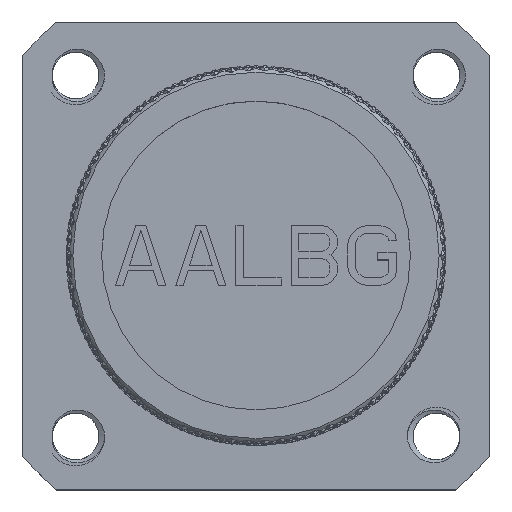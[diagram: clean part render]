
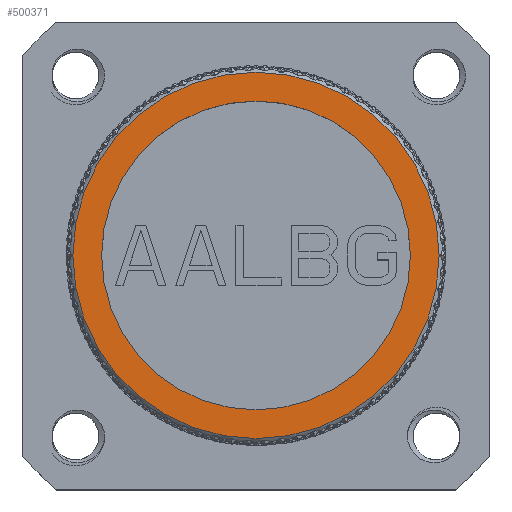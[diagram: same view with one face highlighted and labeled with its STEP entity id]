
A CAD part, top view. The second image highlights one B-rep face of the part: STEP entity #500371.
In plain terms, the highlighted planar face has unit normal (0, 0, 1).
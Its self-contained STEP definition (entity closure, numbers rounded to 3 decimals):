
#149190=CARTESIAN_POINT('',(0.,0.,26.85));
#149191=DIRECTION('',(0.,0.,-1.));
#149192=DIRECTION('',(1.,0.,0.));
#149193=AXIS2_PLACEMENT_3D('',#149190,#149191,#149192);
#149195=CARTESIAN_POINT('',(0.,0.,26.85));
#149196=DIRECTION('',(0.,0.,-1.));
#149197=DIRECTION('',(-1.,0.,0.));
#149198=AXIS2_PLACEMENT_3D('',#149195,#149196,#149197);
#149200=CARTESIAN_POINT('',(0.,0.,26.85));
#149201=DIRECTION('',(0.,0.,1.));
#149202=DIRECTION('',(-1.,0.,0.));
#149203=AXIS2_PLACEMENT_3D('',#149200,#149201,#149202);
#149205=CARTESIAN_POINT('',(0.,0.,26.85));
#149206=DIRECTION('',(0.,0.,1.));
#149207=DIRECTION('',(1.,0.,0.));
#149208=AXIS2_PLACEMENT_3D('',#149205,#149206,#149207);
#173060=CARTESIAN_POINT('',(13.7,0.,26.85));
#173061=VERTEX_POINT('',#173060);
#173062=CARTESIAN_POINT('',(-13.7,0.,26.85));
#173063=VERTEX_POINT('',#173062);
#184017=CARTESIAN_POINT('',(-11.55,0.,26.85));
#184018=CARTESIAN_POINT('',(11.55,0.,26.85));
#184019=VERTEX_POINT('',#184017);
#184020=VERTEX_POINT('',#184018);
#500356=CARTESIAN_POINT('',(0.,0.,26.85));
#500357=DIRECTION('',(0.,0.,1.));
#500358=DIRECTION('',(-1.,0.,0.));
#500359=AXIS2_PLACEMENT_3D('',#500356,#500357,#500358);
#500360=PLANE('12044',#500359);
#500361=ORIENTED_EDGE('22650',*,*,#285551,.T.);
#500362=ORIENTED_EDGE('22409',*,*,#284972,.T.);
#500363=EDGE_LOOP('12044',(#500361,#500362));
#500364=FACE_OUTER_BOUND('12044',#500363,.F.);
#500366=ORIENTED_EDGE('39550',*,*,#500365,.T.);
#500368=ORIENTED_EDGE('39551',*,*,#500367,.T.);
#500369=EDGE_LOOP('12044',(#500366,#500368));
#500370=FACE_BOUND('12044',#500369,.F.);
#149194=CIRCLE('22650',#149193,13.7);
#149199=CIRCLE('22409',#149198,13.7);
#149204=CIRCLE('39550',#149203,11.55);
#149209=CIRCLE('39551',#149208,11.55);
#284972=EDGE_CURVE('22409',#173063,#173061,#149199,.T.);
#285551=EDGE_CURVE('22650',#173061,#173063,#149194,.T.);
#500365=EDGE_CURVE('39550',#184019,#184020,#149204,.T.);
#500367=EDGE_CURVE('39551',#184020,#184019,#149209,.T.);
#500371=ADVANCED_FACE('12044',(#500364,#500370),#500360,.T.);
